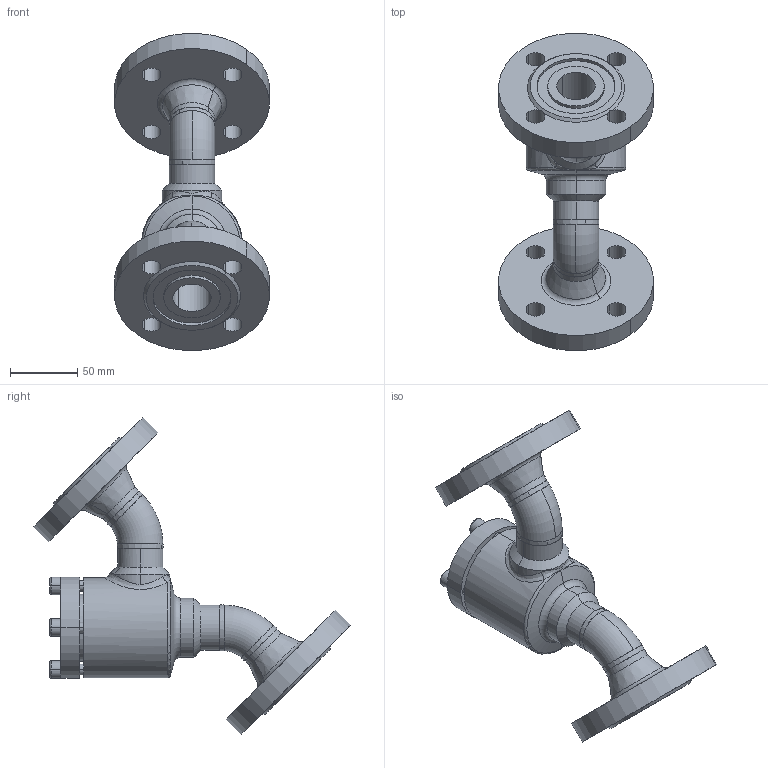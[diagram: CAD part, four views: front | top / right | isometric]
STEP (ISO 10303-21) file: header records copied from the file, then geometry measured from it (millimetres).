
FILE_DESCRIPTION (( 'STEP AP214' ), '1' );
FILE_NAME ('SS52320D12-DN025_DIN-FL-N_PS40.STEP', '2006-05-02T05:46:56', ( 'Herr Grams' ), ( 'AWP GmbH' ), 'SwSTEP 2.0', 'SolidWorks 2002296', '' );
FILE_SCHEMA (( 'AUTOMOTIVE_DESIGN' ));
Length unit declared in the file: millimetre
Products named in the file (13): SS52320D12-DN025_DIN-FL-N_PS40; Gehäuse-kpl16320-DN025_DIN_PS40_Standard; Flansch-DIN2635-Nut_PS40_DIN-Flansch-DN025_PS40-Nut; Gehäuse-kpl16300-DN025_R1_Standard; Gehäuse16400-DN025_Standard; Rohrbogen 45°_R1-Fase_Rohrbogen-DN025-45°; bead16300-Geh-025-1_Standard; bead16300-Geh-025-2_Standard; bead16320-DN025-2_Standard; bead16320-DN025-1_Standard; SS52300E13_Deck+Schr-DN25-32_Standard; Deckel52300E13-DN25-32_Standard; Zylinderschraube-DIN912_M 8x 25
Assembly tree (17 placements, depth 4):
  SS52320D12-DN025_DIN-FL-N_PS40
    SS52300E13_Deck+Schr-DN25-32_Standard
      Zylinderschraube-DIN912_M 8x 25  x4
      Deckel52300E13-DN25-32_Standard
    Gehäuse-kpl16320-DN025_DIN_PS40_Standard
      Flansch-DIN2635-Nut_PS40_DIN-Flansch-DN025_PS40-Nut  x2
      bead16320-DN025-1_Standard
      Gehäuse-kpl16300-DN025_R1_Standard
        bead16300-Geh-025-2_Standard
        Gehäuse16400-DN025_Standard
        Rohrbogen 45°_R1-Fase_Rohrbogen-DN025-45°  x2
        bead16300-Geh-025-1_Standard
      bead16320-DN025-2_Standard
Bounding box: 114.56 x 235.16 x 235.16 mm (x, y, z)
Volume: 592338.7 mm3; surface area: 147269.4 mm2
Topology: 14 solids, 14 shells, 252 faces, 596 edges, 376 vertices
Faces by surface type: cylinder 85, plane 67, cone 57, torus 24, bspline 19
Entity records: 47265 total; most frequent: CARTESIAN_POINT 42956, ORIENTED_EDGE 756, DIRECTION 751, EDGE_CURVE 378, AXIS2_PLACEMENT_3D 319, VERTEX_POINT 238, EDGE_LOOP 186, CIRCLE 159
